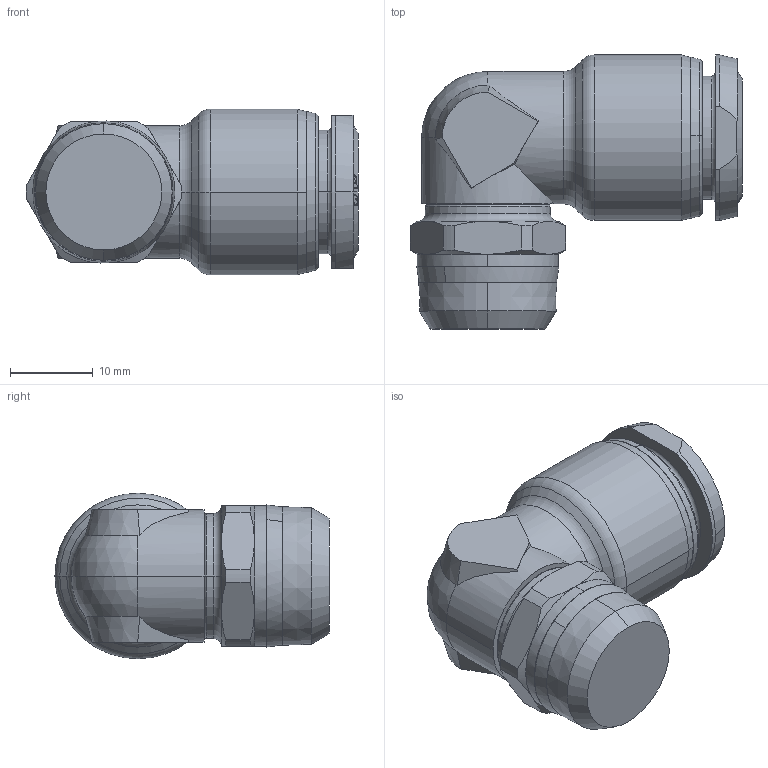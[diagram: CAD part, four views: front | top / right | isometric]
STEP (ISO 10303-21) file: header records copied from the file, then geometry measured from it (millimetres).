
FILE_DESCRIPTION (( 'STEP AP203' ), '1' );
FILE_NAME ('8511100018A.step', '2012-10-31T14:29:18', ( '' ), ( '' ), 'SwSTEP 2.0', 'SolidWorks 2012', '' );
FILE_SCHEMA (( 'CONFIG_CONTROL_DESIGN' ));
Length unit declared in the file: millimetre
Products named in the file (1): 8511100018A
Bounding box: 40.1 x 33.1 x 20 mm (x, y, z)
Volume: 12836.7 mm3; surface area: 3822.6 mm2
Topology: 1 solids, 1 shells, 157 faces, 379 edges, 236 vertices
Faces by surface type: cone 44, bspline 42, plane 36, cylinder 21, torus 12, sphere 2
Entity records: 6265 total; most frequent: CARTESIAN_POINT 2925, ORIENTED_EDGE 758, DIRECTION 552, EDGE_CURVE 379, VERTEX_POINT 236, AXIS2_PLACEMENT_3D 235, EDGE_LOOP 169, B_SPLINE_CURVE_WITH_KNOTS 164
